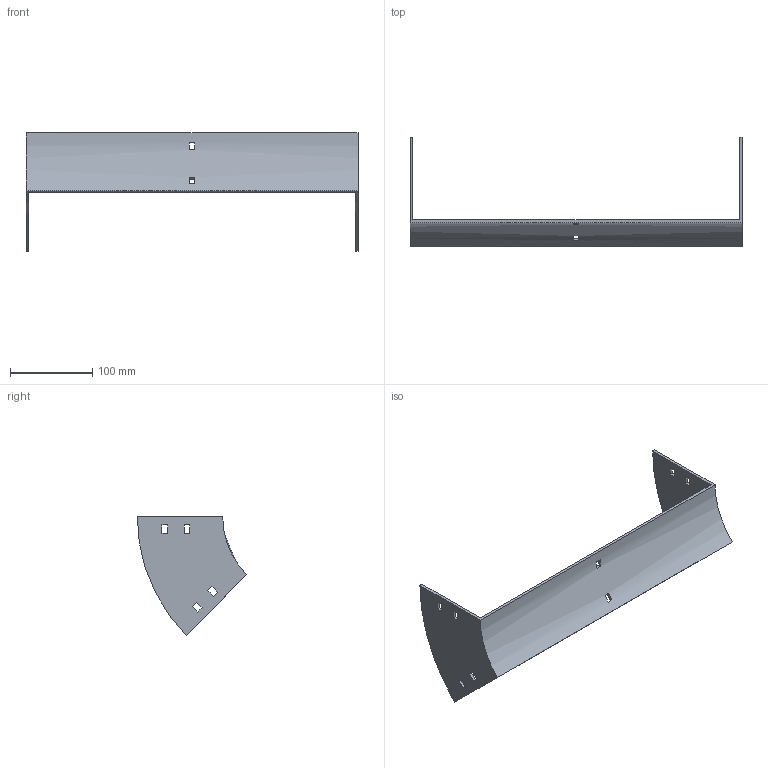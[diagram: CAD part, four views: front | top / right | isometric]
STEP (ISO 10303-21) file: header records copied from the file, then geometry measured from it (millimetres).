
FILE_DESCRIPTION (( 'STEP AP214' ), '1' );
FILE_NAME ('34B1D400.step', '2025-02-21T09:27:30', ( '' ), ( '' ), 'SwSTEP 2.0', 'SolidWorks 2023', '' );
FILE_SCHEMA (( 'AUTOMOTIVE_DESIGN' ));
Length unit declared in the file: millimetre
Products named in the file (1): 34B1D400
Bounding box: 404 x 133.29 x 144.25 mm (x, y, z)
Volume: 195574.7 mm3; surface area: 118276 mm2
Topology: 1 solids, 1 shells, 50 faces, 144 edges, 96 vertices
Faces by surface type: plane 46, cylinder 4
Entity records: 1687 total; most frequent: CARTESIAN_POINT 291, ORIENTED_EDGE 288, DIRECTION 262, EDGE_CURVE 144, VECTOR 128, LINE 128, VERTEX_POINT 96, EDGE_LOOP 70
